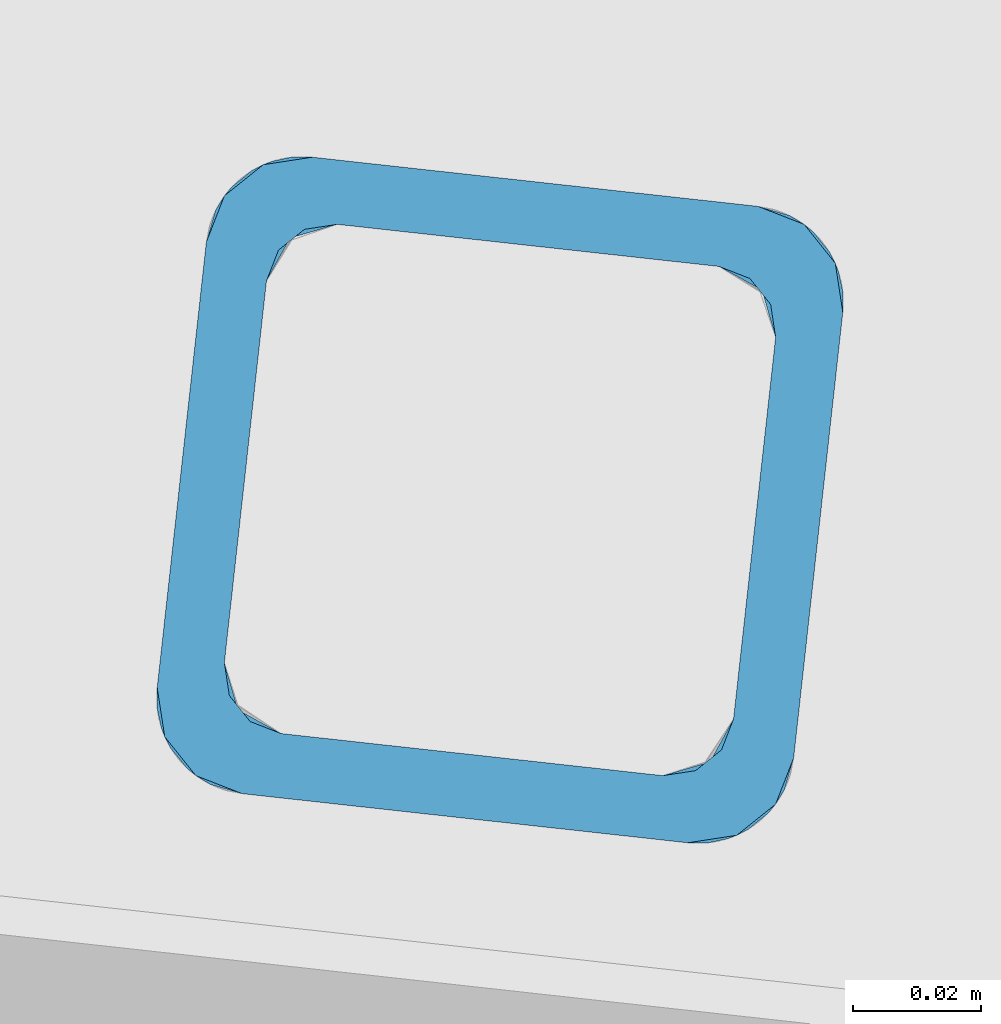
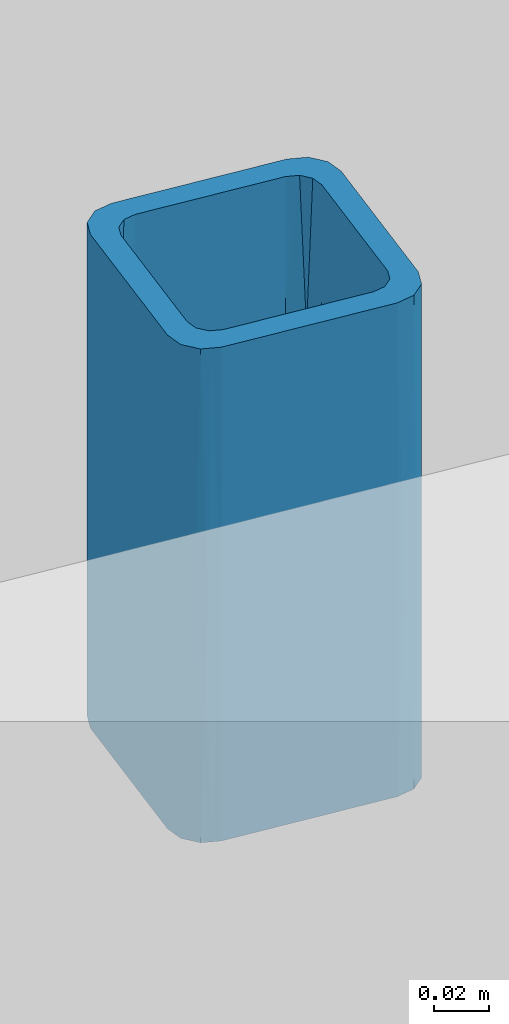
# One storey, part 10 of 11: 1 column.
"""IFC2X3 building model written with IfcOpenShell, lengths in millimetres."""

from ifc_helpers import new_model, entity, si_unit, converted_unit, derived_unit, direction, frame, origin, place, context, subcontext, project, spatial, faceted_brep, source, transform, mapped, material, type_object, type_shapes, element, save


model = new_model("IFC2X3")

# Units and contexts
model_context = context("Model", 3, precision=0.01, world=origin(), true_north=direction((6.123233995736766e-17, 1.0)))
body_context = subcontext(model_context, "Body", "Model", "MODEL_VIEW")
ifc_project = project(units=[si_unit("LENGTHUNIT", "METRE", prefix="MILLI"), converted_unit("PLANEANGLEUNIT", "DEGREE", entity("IfcPlaneAngleMeasure", 0.017453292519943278), si_unit("PLANEANGLEUNIT", "RADIAN"), dimensions=[0, 0, 0, 0, 0, 0, 0]), si_unit("AREAUNIT", "SQUARE_METRE"), derived_unit("THERMALTRANSMITTANCEUNIT", [(si_unit("MASSUNIT", "GRAM", prefix="KILO"), 1), (si_unit("THERMODYNAMICTEMPERATUREUNIT", "KELVIN"), -1), (si_unit("TIMEUNIT", "SECOND"), -3)])], contexts=[model_context])

# Site, building, storey
site_placement = place(None, frame((-72937.88054949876, 11621.45624098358, 0.0), z_axis=(0.0, 0.0, 1.0), x_axis=(0.9346418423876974, -0.35559053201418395, 0.0)))
site = spatial("IfcSite", under=ifc_project, at=site_placement, Name="Default", CompositionType="ELEMENT")
building_placement = place(site_placement, origin())
building = spatial("IfcBuilding", under=site, at=building_placement, CompositionType="ELEMENT")
storey_placement = place(building_placement, frame((0.0, 0.0, -3160.0)))
storey = spatial("IfcBuildingStorey", under=building, at=storey_placement, Name="-1 kelder", CompositionType="ELEMENT", Elevation=-3160.0)

# Column
ifc_material = material(Name="metaal_staal_generiek")
column_type = type_object("IfcColumnType", Name="K100x10", PredefinedType="COLUMN", material=ifc_material)
shared_shape = source(origin(), body_context, "Body", "Brep", [
    faceted_brep([(12.564176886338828, 82.94723483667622, 0.0), (1.5875000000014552, 80.10076280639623, 0.0), (1.6188233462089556, 83.9829221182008, 0.0), (12.52241242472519, 77.77102242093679, 0.0), (1.650146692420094, 87.86508143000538, 0.0), (3.6183531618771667, 91.21146834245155, 0.0), (5.586559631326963, 94.55785525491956, 0.0), (15.18845217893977, 87.40908405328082, 0.0), (27.58344839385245, 19.692065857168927, 0.0), (19.158708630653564, 12.341980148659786, 0.0), (30.135385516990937, 15.18845217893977, 0.0), (21.4458971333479, 8.305590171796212, 0.0), (22.986614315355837, 5.586559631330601, 0.0), (34.59723473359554, 12.56417688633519, 0.0), (26.33300122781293, 3.6183531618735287, 0.0), (29.67938814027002, 1.650146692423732, 0.0), (33.561547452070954, 1.6188233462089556, 0.0), (37.44370676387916, 1.5875000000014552, 0.0), (39.77344714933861, 12.52241242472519, 0.0), (97.8524037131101, 27.58344839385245, 0.0), (105.20248942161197, 19.158708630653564, 0.0), (102.35601739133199, 30.135385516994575, 0.0), (109.23887939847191, 21.445897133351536, 0.0), (111.9579099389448, 22.986614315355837, 0.0), (113.92611640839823, 26.333001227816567, 0.0), (115.89432287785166, 29.67938814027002, 0.0), (104.98029268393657, 34.59723473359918, 0.0), (115.92564622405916, 33.56154745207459, 0.0), (115.95696957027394, 37.44370676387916, 0.0), (105.0220571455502, 39.77344714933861, 0.0), (98.38576093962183, 105.20248942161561, 0.0), (89.96102117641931, 97.85240371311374, 0.0), (87.40908405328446, 102.35601739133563, 0.0), (96.09857243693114, 109.23887939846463, 0.0), (94.55785525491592, 111.9579099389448, 0.0), (91.21146834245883, 113.92611640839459, 0.0), (87.86508143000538, 115.89432287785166, 0.0), (82.94723483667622, 104.9802926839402, 0.0), (83.9829221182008, 115.92564622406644, 0.0), (80.10076280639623, 115.95696957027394, 0.0), (77.77102242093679, 105.0220571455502, 0.0), (12.341980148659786, 98.38576093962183, 0.0), (19.69206585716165, 89.96102117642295, 0.0), (8.305590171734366, 96.09857243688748, 0.0), (89.71789814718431, 115.24865842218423, 110.0000000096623), (97.25463703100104, 108.20073411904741, 82.1160909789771), (96.4718080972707, 108.58019968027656, 220.0), (98.38576093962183, 105.20248942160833, 220.0), (95.60509931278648, 110.77500634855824, 110.00000000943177), (98.3857609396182, 105.20248942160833, 84.76686755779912), (93.09316090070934, 113.26346837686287, 132.14015974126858), (91.21146834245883, 113.92611640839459, 220.0), (94.55785525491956, 111.9579099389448, 220.0), (85.18368721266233, 116.3792436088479, 109.99999998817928), (87.86508143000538, 115.89432287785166, 220.0), (83.9829221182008, 115.92564622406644, 220.0), (80.10076280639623, 115.95696957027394, 110.0), (80.10076280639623, 115.95696957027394, 220.0), (115.9569695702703, 37.44370676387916, 220.0), (115.9569695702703, 37.44370676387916, 110.0), (115.24865842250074, 27.826571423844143, 110.00000001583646), (108.200734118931, 20.28983253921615, 82.11609103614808), (108.58019968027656, 21.07266147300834, 220.0), (105.20248942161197, 19.158708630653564, 220.0), (110.77500634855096, 21.93937025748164, 110.00000001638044), (105.20248942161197, 19.158708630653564, 84.76686741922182), (113.26346837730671, 24.451308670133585, 132.14015966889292), (113.92611640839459, 26.333001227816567, 220.0), (111.9579099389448, 22.986614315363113, 220.0), (116.37924360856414, 32.36078235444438, 109.9999999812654), (115.89432287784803, 29.67938814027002, 220.0), (115.92564622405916, 33.56154745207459, 220.0), (37.443706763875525, 1.5874999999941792, 220.0), (37.443706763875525, 1.5875000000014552, 110.0), (27.826571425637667, 2.2958111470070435, 110.00000003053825), (20.289832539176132, 9.34373545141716, 82.11609114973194), (21.0726614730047, 8.964269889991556, 220.0), (19.158708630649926, 12.341980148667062, 220.0), (21.939370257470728, 6.769463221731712, 110.00000003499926), (19.158708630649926, 12.341980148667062, 84.76721149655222), (24.451308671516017, 4.28100119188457, 132.14015952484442), (26.33300122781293, 3.6183531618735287, 220.0), (22.9866143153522, 5.586559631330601, 220.0), (32.36078235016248, 1.1652259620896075, 109.99999996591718), (29.679388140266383, 1.650146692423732, 220.0), (33.561547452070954, 1.6188233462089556, 220.0), (1.5875000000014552, 80.10076280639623, 220.0), (1.5875000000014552, 80.10076280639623, 109.99969562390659), (2.2958111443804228, 89.7178981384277, 110.00000008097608), (9.343735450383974, 97.25463703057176, 82.11609148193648), (8.964269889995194, 96.47180809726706, 220.0), (12.341980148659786, 98.38576093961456, 220.0), (6.769463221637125, 95.605099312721, 110.00000011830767), (12.341980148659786, 98.38576093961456, 84.76688779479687), (4.281001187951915, 93.09316089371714, 132.14015912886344), (3.6183531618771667, 91.21146834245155, 220.0), (5.586559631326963, 94.55785525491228, 220.0), (1.1652259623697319, 85.18368722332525, 109.99999992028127), (1.650146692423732, 87.8650814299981, 220.0), (1.6188233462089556, 83.9829221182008, 220.0), (19.69206585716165, 89.96102117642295, 220.0), (19.69206585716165, 89.96102117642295, 165.00000102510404), (19.69206585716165, 89.96102117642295, 110.00000205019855), (19.69206585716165, 89.96102117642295, 55.00000307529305), (77.77102242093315, 105.0220571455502, 55.0), (77.77102242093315, 105.0220571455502, 110.0), (77.77102242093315, 105.0220571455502, 165.0), (77.77102242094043, 105.0220571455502, 220.0), (12.52241242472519, 77.77102242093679, 164.79130212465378), (12.52241242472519, 77.77102242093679, 109.58260424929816), (13.582607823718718, 85.3509057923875, 152.38174158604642), (15.188452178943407, 87.40908405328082, 220.0), (13.582607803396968, 85.35090575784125, 67.45762878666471), (12.564176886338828, 82.94723483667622, 220.0), (12.52241242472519, 77.77102242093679, 54.79129871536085), (12.52241242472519, 77.77102242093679, 220.0), (27.58344839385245, 19.69206585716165, 220.0), (27.583448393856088, 19.69206585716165, 164.79130182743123), (27.583448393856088, 19.692065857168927, 109.58260717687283), (27.583448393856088, 19.69206585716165, 54.79130358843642), (32.1935638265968, 13.582607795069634, 152.3817421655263), (30.135385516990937, 15.18845217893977, 220.0), (34.59723473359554, 12.56417688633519, 220.0), (39.77344714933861, 12.52241242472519, 220.0), (39.77344714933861, 12.52241242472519, 165.00000083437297), (39.77344714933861, 12.52241242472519, 54.99999916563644), (32.19356358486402, 13.582607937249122, 67.45763035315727), (39.77344714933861, 12.52241242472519, 110.0), (97.85240371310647, 27.58344839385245, 220.0), (97.85240371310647, 27.58344839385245, 164.79130252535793), (97.85240371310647, 27.58344839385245, 109.58260658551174), (97.85240371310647, 27.58344839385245, 54.79130406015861), (105.02205714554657, 39.77344714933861, 220.0), (105.02205714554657, 39.77344714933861, 165.0), (104.98029268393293, 34.59723473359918, 220.0), (105.02205714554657, 39.77344714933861, 55.0), (103.96186181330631, 32.19356389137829, 152.38174224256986), (102.35601739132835, 30.1353855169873, 220.0), (103.96186154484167, 32.19356343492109, 67.45763093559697), (105.02205714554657, 39.77344714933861, 110.0), (89.96102117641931, 97.85240371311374, 220.0), (89.96102117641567, 97.85240371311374, 164.79130764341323), (89.96102117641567, 97.85240371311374, 109.58260569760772), (89.96102117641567, 97.85240371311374, 54.791302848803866), (82.94723483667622, 104.98029268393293, 220.0), (85.35090582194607, 103.96186172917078, 152.381739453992), (87.40908405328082, 102.35601739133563, 220.0), (85.35090569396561, 103.96186180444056, 67.45762944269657)], [[[0, 1, 2]], [[0, 3, 1]], [[0, 2, 4]], [[0, 4, 5]], [[0, 5, 6]], [[0, 6, 7]], [[1, 3, 8]], [[8, 9, 1]], [[10, 9, 8]], [[10, 11, 9]], [[10, 12, 11]], [[13, 12, 10]], [[13, 14, 12]], [[13, 15, 14]], [[13, 16, 15]], [[13, 17, 16]], [[18, 17, 13]], [[17, 18, 19]], [[19, 20, 17]], [[20, 19, 21]], [[21, 22, 20]], [[21, 23, 22]], [[21, 24, 23]], [[21, 25, 24]], [[21, 26, 25]], [[26, 27, 25]], [[26, 28, 27]], [[26, 29, 28]], [[28, 29, 30]], [[31, 30, 29]], [[31, 32, 30]], [[32, 33, 30]], [[32, 34, 33]], [[32, 35, 34]], [[32, 36, 35]], [[36, 32, 37]], [[37, 38, 36]], [[37, 39, 38]], [[40, 39, 37]], [[39, 40, 41]], [[42, 41, 40]], [[41, 42, 7]], [[7, 6, 43]], [[7, 43, 41]], [[36, 44, 35]], [[45, 46, 47]], [[34, 48, 33]], [[47, 49, 30, 45]], [[35, 50, 34]], [[51, 52, 50]], [[53, 54, 44]], [[44, 50, 35]], [[33, 45, 30]], [[55, 53, 56]], [[44, 54, 51]], [[50, 52, 48]], [[45, 33, 48]], [[52, 46, 48]], [[53, 44, 36]], [[53, 36, 38]], [[39, 56, 38]], [[57, 55, 56]], [[50, 48, 34]], [[44, 51, 50]], [[46, 45, 48]], [[55, 54, 53]], [[38, 56, 53]], [[58, 59, 28, 30, 49, 47]], [[25, 60, 24]], [[61, 62, 63]], [[23, 64, 22]], [[63, 65, 20, 61]], [[24, 66, 23]], [[67, 68, 66]], [[69, 70, 60]], [[60, 66, 24]], [[22, 61, 20]], [[71, 69, 59]], [[60, 70, 67]], [[66, 68, 64]], [[61, 22, 64]], [[68, 62, 64]], [[69, 60, 25]], [[69, 25, 27]], [[28, 59, 27]], [[58, 71, 59]], [[66, 64, 23]], [[60, 67, 66]], [[62, 61, 64]], [[71, 70, 69]], [[27, 59, 69]], [[63, 72, 73, 17, 20, 65]], [[15, 74, 14]], [[75, 76, 77]], [[12, 78, 11]], [[77, 79, 9, 75]], [[14, 80, 12]], [[81, 82, 80]], [[83, 84, 74]], [[74, 80, 14]], [[11, 75, 9]], [[85, 83, 73]], [[74, 84, 81]], [[80, 82, 78]], [[75, 11, 78]], [[82, 76, 78]], [[83, 74, 15]], [[83, 15, 16]], [[17, 73, 16]], [[72, 85, 73]], [[80, 78, 12]], [[74, 81, 80]], [[76, 75, 78]], [[85, 84, 83]], [[16, 73, 83]], [[86, 87, 1, 9, 79, 77]], [[4, 88, 5]], [[89, 90, 91]], [[6, 92, 43]], [[91, 93, 41, 89]], [[5, 94, 6]], [[95, 96, 94]], [[97, 98, 88]], [[88, 94, 5]], [[43, 89, 41]], [[99, 97, 87]], [[88, 98, 95]], [[94, 96, 92]], [[89, 43, 92]], [[96, 90, 92]], [[97, 88, 4]], [[97, 4, 2]], [[1, 87, 2]], [[86, 99, 87]], [[94, 92, 6]], [[88, 95, 94]], [[90, 89, 92]], [[99, 98, 97]], [[2, 87, 97]], [[57, 56, 39, 41, 93, 91]], [[100, 101, 102, 103, 42, 40, 104, 105, 106, 107]], [[108, 109, 110]], [[110, 101, 111]], [[109, 112, 110]], [[110, 113, 108]], [[111, 113, 110]], [[112, 109, 114]], [[112, 0, 7]], [[112, 114, 0]], [[102, 110, 112]], [[103, 102, 112]], [[113, 115, 108]], [[3, 0, 114]], [[103, 112, 7]], [[7, 42, 103]], [[100, 111, 101]], [[110, 102, 101]], [[115, 116, 117, 118, 119, 8, 3, 114, 109, 108]], [[120, 117, 121]], [[122, 123, 124]], [[18, 13, 125]], [[121, 122, 120]], [[8, 119, 10]], [[116, 121, 117]], [[126, 10, 119]], [[127, 126, 120]], [[126, 13, 10]], [[124, 127, 120]], [[118, 120, 126]], [[126, 125, 13]], [[119, 118, 126]], [[120, 122, 124]], [[126, 127, 125]], [[120, 118, 117]], [[123, 128, 129, 130, 131, 19, 18, 125, 127, 124]], [[132, 133, 134]], [[29, 26, 135]], [[133, 136, 134]], [[19, 131, 21]], [[128, 137, 129]], [[136, 137, 134]], [[138, 21, 131]], [[138, 26, 21]], [[139, 138, 136]], [[133, 139, 136]], [[138, 135, 26]], [[131, 130, 138]], [[136, 129, 137]], [[130, 136, 138]], [[138, 139, 135]], [[136, 130, 129]], [[140, 141, 142, 143, 31, 29, 135, 139, 133, 132]], [[144, 145, 146]], [[144, 107, 106]], [[40, 37, 104]], [[106, 105, 145]], [[106, 145, 144]], [[145, 141, 146]], [[32, 147, 37]], [[31, 143, 32]], [[140, 146, 141]], [[147, 104, 37]], [[142, 145, 147]], [[147, 32, 143]], [[143, 142, 147]], [[105, 147, 145]], [[147, 105, 104]], [[145, 142, 141]], [[121, 77, 76]], [[121, 116, 77]], [[121, 76, 82]], [[121, 82, 122]], [[77, 116, 115]], [[86, 77, 115]], [[115, 113, 86]], [[113, 99, 86]], [[113, 98, 99]], [[113, 111, 98]], [[111, 95, 98]], [[111, 96, 95]], [[111, 90, 96]], [[111, 91, 90]], [[111, 100, 91]], [[91, 100, 107]], [[107, 57, 91]], [[57, 107, 144]], [[144, 55, 57]], [[144, 54, 55]], [[144, 146, 54]], [[146, 51, 54]], [[146, 52, 51]], [[146, 46, 52]], [[146, 47, 46]], [[146, 140, 47]], [[47, 140, 58]], [[132, 58, 140]], [[132, 134, 58]], [[134, 71, 58]], [[134, 70, 71]], [[134, 67, 70]], [[134, 68, 67]], [[137, 68, 134]], [[137, 62, 68]], [[137, 63, 62]], [[137, 128, 63]], [[128, 72, 63]], [[123, 72, 128]], [[72, 123, 122]], [[122, 82, 81]], [[122, 81, 84]], [[122, 84, 85]], [[122, 85, 72]]]),
])
type_shapes(column_type, [shared_shape])
column_placement = place(storey_placement, frame((18735.568333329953, 33558.73277164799, 2940.0)))
element("IfcColumn", 1, at=column_placement, inside=storey, type_object=column_type, material=ifc_material, Name="28.11_Kolom koker gelijkzijdig", ObjectType="stalen kolom, koker gelijkzijdig", context=body_context, shape_type="MappedRepresentation", body=[
    mapped(shared_shape, transform((0.0, 0.0, 0.0), scale=1.0)),
])

save(model, "model.ifc")
